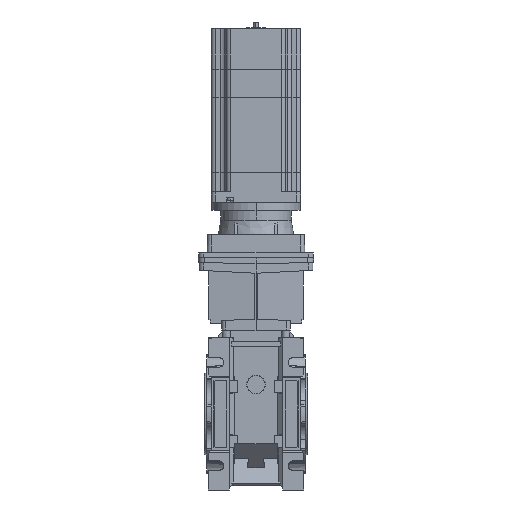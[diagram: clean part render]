
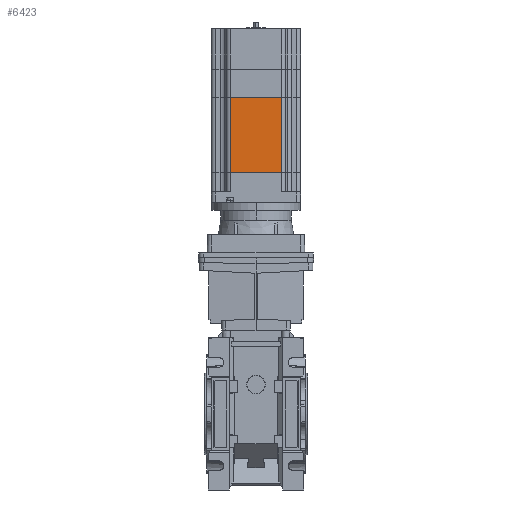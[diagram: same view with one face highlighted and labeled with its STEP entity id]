
A CAD part, front view. The second image highlights one B-rep face of the part: STEP entity #6423.
In plain terms, the highlighted planar face has unit normal (0, -1, 0) as drawn and (0, 0, -1) by its records, which use the part's own axes.
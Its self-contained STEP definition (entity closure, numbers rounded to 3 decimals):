
#1029 = CARTESIAN_POINT ( 'NONE',  ( 40., -105., -60.35 ) ) ;
#2242 = DIRECTION ( 'NONE',  ( 0., 1., 0. ) ) ;
#3888 = DIRECTION ( 'NONE',  ( -1., 0., 0. ) ) ;
#5068 = LINE ( 'NONE', #16140, #10744 ) ;
#6141 = EDGE_CURVE ( 'NONE', #45542, #48977, #9356, .T. ) ;
#6423 = ADVANCED_FACE ( 'NONE', ( #24135 ), #35399, .T. ) ;
#8098 = CARTESIAN_POINT ( 'NONE',  ( -35., -105., -60.35 ) ) ;
#8148 = CARTESIAN_POINT ( 'NONE',  ( 35., -3., -60.35 ) ) ;
#8800 = VECTOR ( 'NONE', #3888, 1000. ) ;
#9356 = LINE ( 'NONE', #13386, #22802 ) ;
#10744 = VECTOR ( 'NONE', #43438, 1000. ) ;
#12673 = AXIS2_PLACEMENT_3D ( 'NONE', #1029, #31645, #43172 ) ;
#12704 = CARTESIAN_POINT ( 'NONE',  ( 35., -105., -60.35 ) ) ;
#13386 = CARTESIAN_POINT ( 'NONE',  ( 40., -3., -60.35 ) ) ;
#14115 = CARTESIAN_POINT ( 'NONE',  ( -35., -3., -60.35 ) ) ;
#16140 = CARTESIAN_POINT ( 'NONE',  ( 35., -105., -60.35 ) ) ;
#16286 = EDGE_CURVE ( 'NONE', #45542, #31090, #5068, .T. ) ;
#16392 = ORIENTED_EDGE ( 'NONE', *, *, #16286, .T. ) ;
#19543 = VERTEX_POINT ( 'NONE', #8098 ) ;
#19905 = EDGE_CURVE ( 'NONE', #19543, #48977, #32106, .T. ) ;
#20329 = CARTESIAN_POINT ( 'NONE',  ( -35., -105., -60.35 ) ) ;
#21161 = DIRECTION ( 'NONE',  ( -1., 0., 0. ) ) ;
#22802 = VECTOR ( 'NONE', #21161, 1000. ) ;
#23867 = ORIENTED_EDGE ( 'NONE', *, *, #24129, .T. ) ;
#24129 = EDGE_CURVE ( 'NONE', #31090, #19543, #41777, .T. ) ;
#24135 = FACE_OUTER_BOUND ( 'NONE', #46684, .T. ) ;
#25668 = ORIENTED_EDGE ( 'NONE', *, *, #19905, .T. ) ;
#25873 = VECTOR ( 'NONE', #2242, 1000. ) ;
#31090 = VERTEX_POINT ( 'NONE', #12704 ) ;
#31645 = DIRECTION ( 'NONE',  ( 0., 0., -1. ) ) ;
#32106 = LINE ( 'NONE', #20329, #25873 ) ;
#35399 = PLANE ( 'NONE',  #12673 ) ;
#40964 = ORIENTED_EDGE ( 'NONE', *, *, #6141, .F. ) ;
#41777 = LINE ( 'NONE', #46516, #8800 ) ;
#43172 = DIRECTION ( 'NONE',  ( -1., 0., 0. ) ) ;
#43438 = DIRECTION ( 'NONE',  ( 0., -1., 0. ) ) ;
#45542 = VERTEX_POINT ( 'NONE', #8148 ) ;
#46516 = CARTESIAN_POINT ( 'NONE',  ( 40., -105., -60.35 ) ) ;
#46684 = EDGE_LOOP ( 'NONE', ( #23867, #25668, #40964, #16392 ) ) ;
#48977 = VERTEX_POINT ( 'NONE', #14115 ) ;
